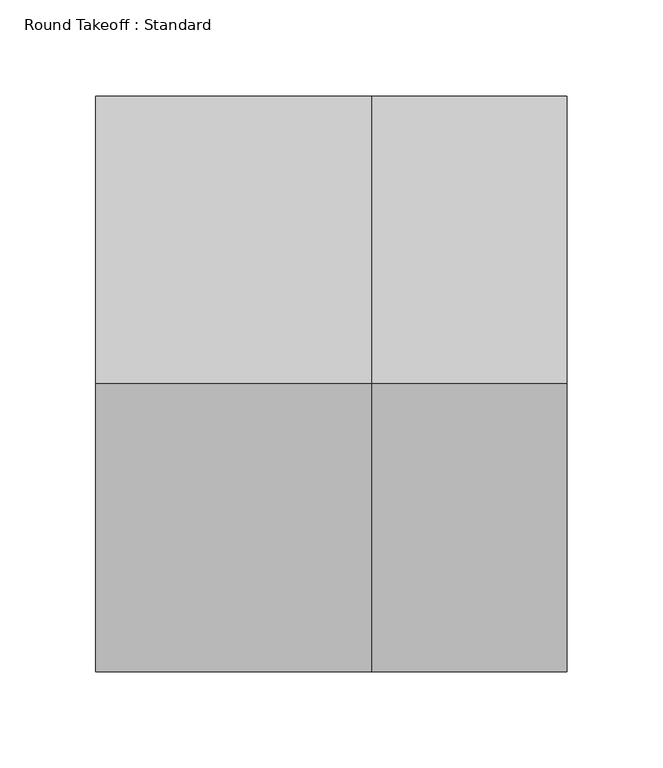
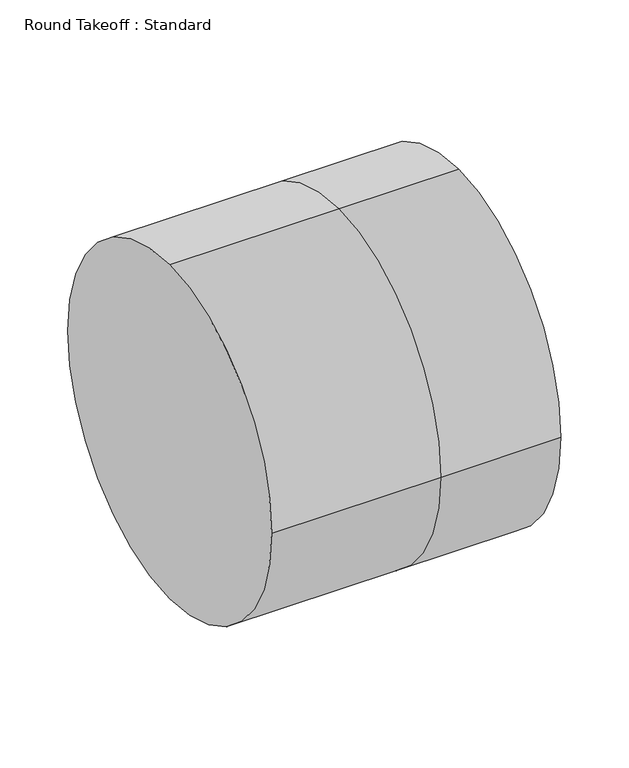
"""IFC4 building model written with IfcOpenShell, lengths in millimetres: duct fitting geometry, Round Takeoff : Standard."""

from ifc_helpers import new_model, si_unit, frame, origin, place, context, project, spatial, circle_curve, source, transform, mapped, element, save
from ifc_brep_helpers import plane_surface, cylinder_surface, advanced_brep


def round_takeoff_standard_db76dcd0(model_context):
    return source(origin(), model_context, "Body", "AdvancedBrep", [
        advanced_brep(
        [(101.6, 0.0, 150.0), (101.6, -150.0, 0.0), (101.6, 0.0, -150.0), (101.6, 150.0, 0.0), (0.0, 0.0, 150.0), (0.0, -150.0, 0.0), (0.0, 0.0, -150.0), (0.0, 150.0, 0.0), (-143.904, 0.0, 150.0), (-143.904, 150.0, 0.0), (-143.904, 0.0, -150.0), (-143.904, -150.0, 0.0)],
        [
            (0, 1, circle_curve(frame((101.6, 0.0, 0.0), z_axis=(1.0, 0.0, 0.0), x_axis=(0.0, -1.0, 0.0)), 150.0)),
            (1, 2, circle_curve(frame((101.6, 0.0, 0.0), z_axis=(1.0, 0.0, 0.0), x_axis=(0.0, -1.0, 0.0)), 150.0)),
            (2, 3, circle_curve(frame((101.6, 0.0, 0.0), z_axis=(1.0, 0.0, 0.0), x_axis=(0.0, -1.0, 0.0)), 150.0)),
            (3, 0, circle_curve(frame((101.6, 0.0, 0.0), z_axis=(1.0, 0.0, 0.0), x_axis=(0.0, -1.0, 0.0)), 150.0)),
            (0, 4),
            (4, 5, circle_curve(frame((0.0, 0.0, 0.0), z_axis=(1.0, 0.0, 0.0), x_axis=(0.0, -1.0, 0.0)), 150.0)),
            (5, 1),
            (5, 6, circle_curve(frame((0.0, 0.0, 0.0), z_axis=(1.0, 0.0, 0.0), x_axis=(0.0, -1.0, 0.0)), 150.0)),
            (6, 2),
            (6, 7, circle_curve(frame((0.0, 0.0, 0.0), z_axis=(1.0, 0.0, 0.0), x_axis=(0.0, -1.0, 0.0)), 150.0)),
            (7, 3),
            (7, 4, circle_curve(frame((0.0, 0.0, 0.0), z_axis=(1.0, 0.0, 0.0), x_axis=(0.0, -1.0, 0.0)), 150.0)),
            (8, 9, circle_curve(frame((-143.904, 0.0, 0.0), z_axis=(-1.0, 0.0, 0.0), x_axis=(0.0, -1.0, 0.0)), 150.0)),
            (9, 10, circle_curve(frame((-143.904, 0.0, 0.0), z_axis=(-1.0, 0.0, 0.0), x_axis=(0.0, -1.0, 0.0)), 150.0)),
            (10, 11, circle_curve(frame((-143.904, 0.0, 0.0), z_axis=(-1.0, 0.0, 0.0), x_axis=(0.0, -1.0, 0.0)), 150.0)),
            (11, 8, circle_curve(frame((-143.904, 0.0, 0.0), z_axis=(-1.0, 0.0, 0.0), x_axis=(0.0, -1.0, 0.0)), 150.0)),
            (11, 5),
            (4, 8),
            (10, 6),
            (9, 7),
        ],
        [
            plane_surface(frame((101.6, 0.0, 0.0), z_axis=(1.0, 0.0, 0.0), x_axis=(0.0, 0.0, 1.0))),
            cylinder_surface(frame((0.0, 0.0, 0.0), z_axis=(-1.0, 0.0, 0.0), x_axis=(0.0, -1.0, 0.0)), 150.0),
            plane_surface(frame((-143.904, 0.0, 0.0), z_axis=(-1.0, 0.0, 0.0), x_axis=(0.0, 0.0, 1.0))),
            cylinder_surface(frame((-143.904, 0.0, 0.0), z_axis=(-1.0, 0.0, 0.0), x_axis=(0.0, -1.0, 0.0)), 150.0),
        ],
        [
            (0, [[1, 2, 3, 4]]),
            (1, [[5, 6, 7, -1]]),
            (1, [[-7, 8, 9, -2]]),
            (1, [[-9, 10, 11, -3]]),
            (1, [[-11, 12, -5, -4]]),
            (2, [[13, 14, 15, 16]]),
            (3, [[17, -6, 18, -16]]),
            (3, [[19, -8, -17, -15]]),
            (3, [[20, -10, -19, -14]]),
            (3, [[-18, -12, -20, -13]]),
        ],
    ),
    ])


if __name__ == "__main__":
    model = new_model("IFC4")
    model_context = context("Model", 3, world=origin())
    ifc_project = project(units=[si_unit("LENGTHUNIT", "METRE", prefix="MILLI")], contexts=[model_context])
    site = spatial("IfcSite", under=ifc_project)
    building = spatial("IfcBuilding", under=site)
    placement = place(None, origin())
    round_takeoff_standard_shape = round_takeoff_standard_db76dcd0(model_context)
    element("IfcDuctFitting", 1, ObjectType="Round Takeoff : Standard", at=placement, inside=building, context=model_context, shape_type="MappedRepresentation", body=[
        mapped(round_takeoff_standard_shape, transform((0.0, 0.0, 0.0), x_axis=(1.0, 0.0, 0.0), y_axis=(0.0, 1.0, 0.0), z_axis=(0.0, 0.0, 1.0))),
    ])
    save(model, "model.ifc")
